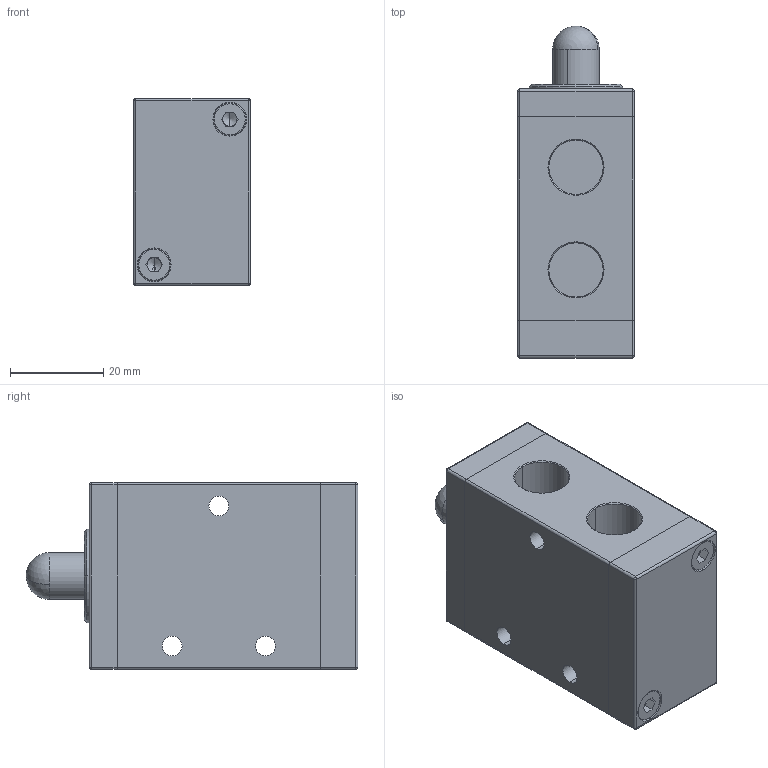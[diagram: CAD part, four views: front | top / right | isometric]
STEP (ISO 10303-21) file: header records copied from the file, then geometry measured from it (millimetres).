
FILE_DESCRIPTION (( 'STEP AP203' ), '1' );
FILE_NAME ('VCMS32.M4.STEP', '2006-01-31T14:40:01', ( 'Vesta Automation srl' ), ( 'Vesta Automation srl' ), 'SwSTEP 2.0', 'SolidWorks 2005187', '' );
FILE_SCHEMA (( 'CONFIG_CONTROL_DESIGN' ));
Length unit declared in the file: millimetre
Products named in the file (3): BODY-VCMS32.M4; SPOOL-VCMS32.M4; VCMS32.M4
Assembly tree (2 placements, depth 2):
  VCMS32.M4
    SPOOL-VCMS32.M4
    BODY-VCMS32.M4
Bounding box: 25 x 71.1 x 40 mm (x, y, z)
Volume: 43772.4 mm3; surface area: 18703.7 mm2
Topology: 2 solids, 6 shells, 332 faces, 818 edges, 507 vertices
Faces by surface type: plane 194, cylinder 96, torus 16, cone 16, sphere 10
Entity records: 9933 total; most frequent: DIRECTION 1730, CARTESIAN_POINT 1644, ORIENTED_EDGE 1600, EDGE_CURVE 800, AXIS2_PLACEMENT_3D 593, VECTOR 544, LINE 544, VERTEX_POINT 507
